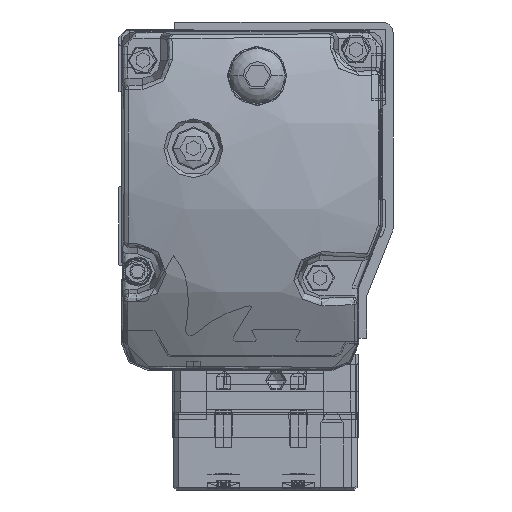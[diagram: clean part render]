
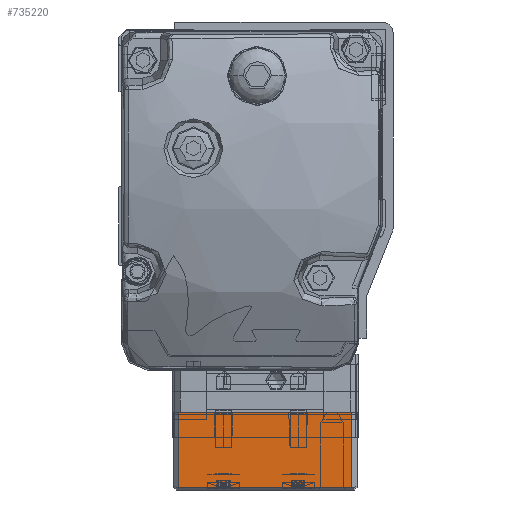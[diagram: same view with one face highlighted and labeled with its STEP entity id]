
A CAD part, left-side view. The second image highlights one B-rep face of the part: STEP entity #735220.
In plain terms, the highlighted planar face has unit normal (-1, 0, 0) as drawn and (0, 1, 0) by its records, which use the part's own axes.
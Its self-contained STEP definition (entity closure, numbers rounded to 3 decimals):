
#653100=CARTESIAN_POINT('',(256.2,137.891,
-152.076));
#653110=VERTEX_POINT('',#653100);
#653140=CARTESIAN_POINT('',(256.2,137.891,
-151.076));
#653150=DIRECTION('',(0.,0.,-1.));
#653160=VECTOR('',#653150,1.);
#653170=LINE('',#653140,#653160);
#653180=CARTESIAN_POINT('',(256.2,137.891,
-166.176));
#653190=VERTEX_POINT('',#653180);
#653200=EDGE_CURVE('',#653110,#653190,#653170,.T.);
#653770=CARTESIAN_POINT('',(223.7,137.891,
-166.176));
#653780=VERTEX_POINT('',#653770);
#653810=CARTESIAN_POINT('',(223.7,137.891,
-151.076));
#653820=DIRECTION('',(0.,0.,1.));
#653830=VECTOR('',#653820,1.);
#653840=LINE('',#653810,#653830);
#653850=CARTESIAN_POINT('',(223.7,137.891,
-152.076));
#653860=VERTEX_POINT('',#653850);
#653870=EDGE_CURVE('',#653780,#653860,#653840,.T.);
#692080=CARTESIAN_POINT('',(311.457,137.891,
-152.076));
#692090=DIRECTION('',(1.,0.,0.));
#692100=VECTOR('',#692090,1.);
#692110=LINE('',#692080,#692100);
#692120=EDGE_CURVE('',#653860,#653110,#692110,.T.);
#735000=CARTESIAN_POINT('',(311.457,137.891,
-166.176));
#735010=DIRECTION('',(1.,0.,0.));
#735020=VECTOR('',#735010,1.);
#735030=LINE('',#735000,#735020);
#735040=EDGE_CURVE('',#653780,#653190,#735030,.T.);
#735110=CARTESIAN_POINT('',(241.191,137.891,
-166.176));
#735120=DIRECTION('',(0.,1.,0.));
#735130=DIRECTION('',(1.,0.,0.));
#735140=AXIS2_PLACEMENT_3D('',#735110,#735120,#735130);
#735150=PLANE('',#735140);
#735160=ORIENTED_EDGE('',*,*,#735040,.F.);
#735170=ORIENTED_EDGE('',*,*,#653200,.T.);
#735180=ORIENTED_EDGE('',*,*,#692120,.T.);
#735190=ORIENTED_EDGE('',*,*,#653870,.T.);
#735200=EDGE_LOOP('',(#735190,#735180,#735170,#735160));
#735210=FACE_OUTER_BOUND('',#735200,.T.);
#735220=ADVANCED_FACE('',(#735210),#735150,.T.);
